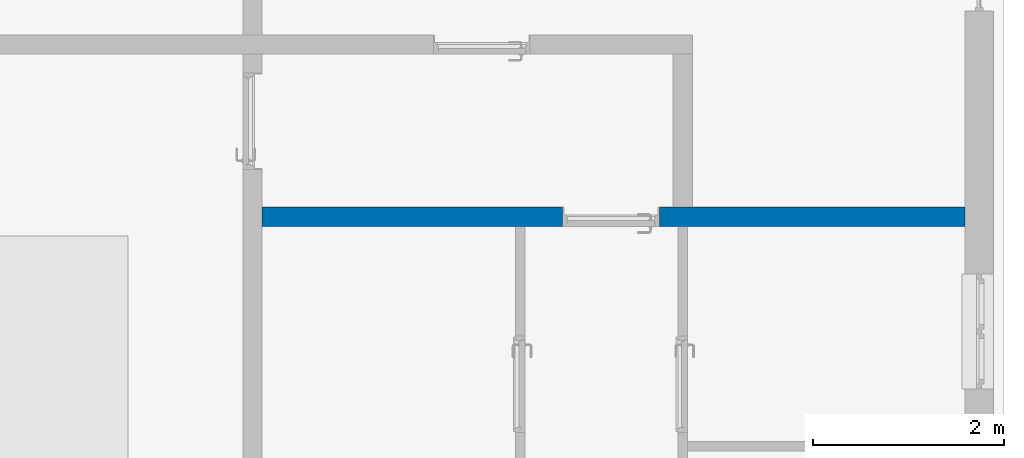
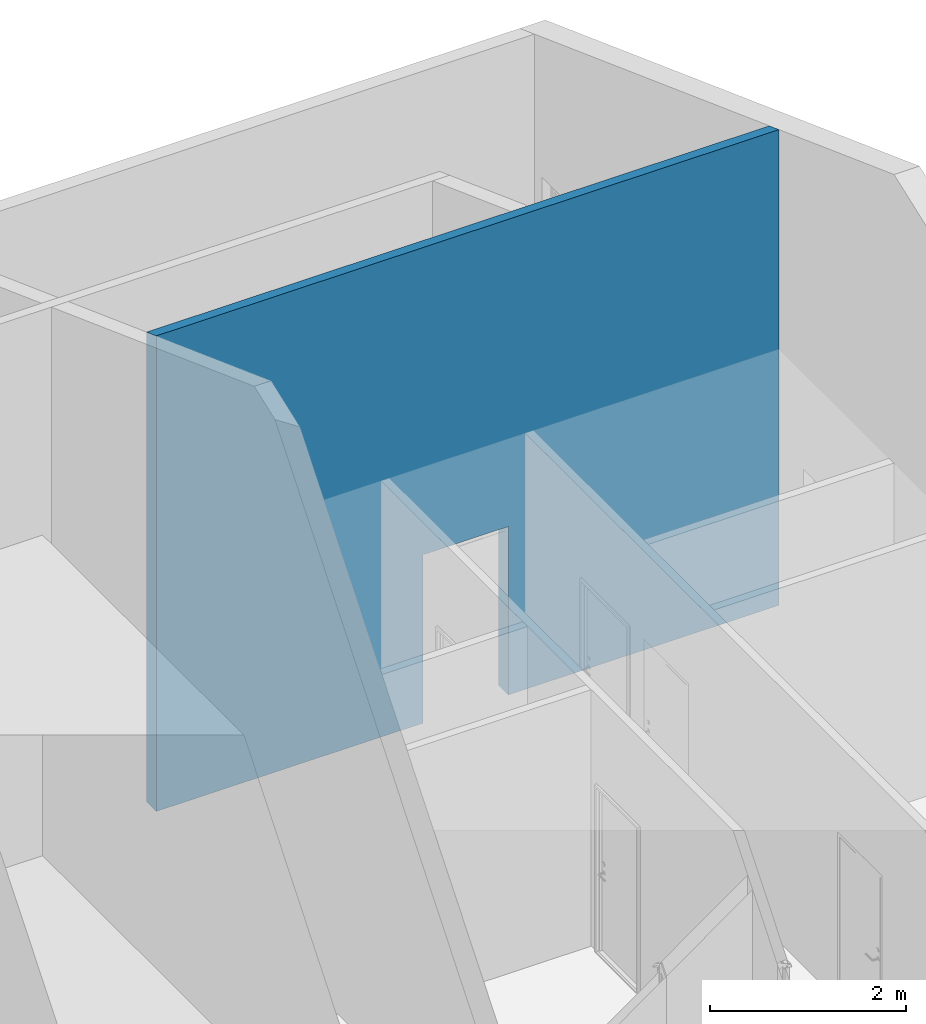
# One storey, part 15 of 23: 1 wall, 1 opening.
"""IFC2X3 building model written with IfcOpenShell, lengths in millimetres."""

import ifcopenshell
import ifcopenshell.guid

model = None  # the IFC model being written
_history = None  # IfcOwnerHistory: only IFC2X3 demands one
_inside = {}  # id of a spatial element -> (the spatial element, [elements in it])
_under = {}  # id of a project, library or spatial element -> (it, [spatial elements below it])
_declared = {}  # id of a project -> (the project, [libraries it declares])
_typed = {}  # id of a type object -> (the type object, [elements of that type])
_made_of = {}  # id of a material, layer set ... -> (it, [elements and type objects made of it])


def new_model(schema):
    """Start an empty IFC model of exactly this schema.

    Asked for "IFC4X3", IfcOpenShell would pick the latest addendum, in which some entities
    have other attributes; the version numbers below select the first issue.
    IFC2X3 requires an IfcOwnerHistory on every rooted entity: one is made here for all.
    """
    global model, _history
    if schema == "IFC4X3":
        model = ifcopenshell.file(schema_version=(4, 3, 0, 0))
    else:
        model = ifcopenshell.file(schema=schema)
    _inside.clear()
    _under.clear()
    _declared.clear()
    _typed.clear()
    _made_of.clear()
    _history = None
    if model.schema == "IFC2X3":
        org = make("IfcOrganization", Name="unknown")
        user = make(
            "IfcPersonAndOrganization",
            ThePerson=make("IfcPerson", FamilyName="unknown"),
            TheOrganization=org,
        )
        app = make(
            "IfcApplication",
            ApplicationDeveloper=org,
            Version="unknown",
            ApplicationFullName="unknown",
            ApplicationIdentifier="unknown",
        )
        _history = make(
            "IfcOwnerHistory",
            OwningUser=user,
            OwningApplication=app,
            ChangeAction="ADDED",
            CreationDate=0,
        )
    return model


def make(cls, **values):
    """One entity of the class cls with the attributes given. An attribute that is None is left unset."""
    return model.create_entity(
        cls, **{name: value for name, value in values.items() if value is not None}
    )


def entity(cls, *values):
    """Any entity or typed value of the class cls, its attributes in the order of the schema. None: left unset."""
    e = model.create_entity(cls)
    for i, value in enumerate(values):
        if value is not None:
            e[i] = value
    return e


def rooted(cls, **values):
    """An entity with a GlobalId (a new one), such as an element, a storey or a relation."""
    return make(cls, GlobalId=ifcopenshell.guid.new(), OwnerHistory=_history, **values)


def si_unit(unit_type, name, prefix=None):
    """IfcSIUnit, for example si_unit("LENGTHUNIT", "METRE", prefix="MILLI")."""
    return make("IfcSIUnit", UnitType=unit_type, Prefix=prefix, Name=name)


def converted_unit(unit_type, name, factor, base, dimensions=None, offset=None):
    """IfcConversionBasedUnit, such as the inch: factor (a typed value) times the base unit."""
    return make(
        "IfcConversionBasedUnit"
        if offset is None
        else "IfcConversionBasedUnitWithOffset",
        ConversionOffset=offset,
        Dimensions=None
        if dimensions is None
        else entity("IfcDimensionalExponents", *dimensions),
        UnitType=unit_type,
        Name=name,
        ConversionFactor=make(
            "IfcMeasureWithUnit", ValueComponent=factor, UnitComponent=base
        ),
    )


def assignment(units):
    """IfcUnitAssignment: the units of a project."""
    return None if units is None else make("IfcUnitAssignment", Units=units)


def point(xyz):
    """IfcCartesianPoint."""
    return None if xyz is None else make("IfcCartesianPoint", Coordinates=xyz)


def direction(xyz):
    """IfcDirection."""
    return None if xyz is None else make("IfcDirection", DirectionRatios=xyz)


def frame(location, z_axis=None, x_axis=None):
    """IfcAxis2Placement3D, a coordinate frame: its origin and axes. An axis left out is left unset."""
    return make(
        "IfcAxis2Placement3D",
        Location=point(location),
        Axis=direction(z_axis),
        RefDirection=direction(x_axis),
    )


def frame_2d(location, x_axis=None):
    """IfcAxis2Placement2D, a coordinate frame in the plane: its origin and x axis."""
    return make(
        "IfcAxis2Placement2D", Location=point(location), RefDirection=direction(x_axis)
    )


def origin():
    """The frame at (0, 0, 0) with its axes left unset."""
    return frame((0.0, 0.0, 0.0))


def place(relative_to, where):
    """IfcLocalPlacement: puts the frame where relative to a parent placement (None: the world)."""
    return make(
        "IfcLocalPlacement", PlacementRelTo=relative_to, RelativePlacement=where
    )


def context(
    kind, dimensions, precision=None, world=None, true_north=None, identifier=None
):
    """IfcGeometricRepresentationContext, for example the 3D "Model" context."""
    return make(
        "IfcGeometricRepresentationContext",
        ContextIdentifier=identifier,
        ContextType=kind,
        CoordinateSpaceDimension=dimensions,
        Precision=precision,
        WorldCoordinateSystem=world,
        TrueNorth=true_north,
    )


def subcontext(parent, identifier, kind, view, scale=None):
    """IfcGeometricRepresentationSubContext, for example "Body" below "Model"."""
    return make(
        "IfcGeometricRepresentationSubContext",
        ContextIdentifier=identifier,
        ContextType=kind,
        ParentContext=parent,
        TargetScale=scale,
        TargetView=view,
    )


def project(units=None, contexts=None):
    """IfcProject with its units and contexts."""
    return rooted(
        "IfcProject",
        Name="project",
        RepresentationContexts=contexts,
        UnitsInContext=assignment(units),
    )


def spatial(cls, under=None, at=None, **own):
    """A site, building, storey or space (cls), placed at a placement, below another one or the project."""
    s = rooted(cls, ObjectPlacement=at, **own)
    if under is not None:
        _under.setdefault(under.id(), (under, []))[1].append(s)
    return s


def polyline(points):
    """IfcPolyline through the points."""
    return make("IfcPolyline", Points=[point(p) for p in points])


def profile(cls, at=None, kind="AREA", **sizes):
    """A parametric profile (cls). Its sizes go by their IFC names, for example OverallWidth=200.0."""
    return make(cls, ProfileType=kind, Position=at, **sizes)


def rectangle(**sizes):
    """IfcRectangleProfileDef."""
    return profile("IfcRectangleProfileDef", **sizes)


def extrude(swept, where, along, depth):
    """IfcExtrudedAreaSolid: the profile swept, set in the frame where, extruded along a direction by depth."""
    return make(
        "IfcExtrudedAreaSolid",
        SweptArea=swept,
        Position=where,
        ExtrudedDirection=direction(along),
        Depth=depth,
    )


def clip(a, b, op="DIFFERENCE"):
    """IfcBooleanClippingResult: the solid a cut by the half space b."""
    return make(
        "IfcBooleanClippingResult", Operator=op, FirstOperand=a, SecondOperand=b
    )


def bounded_halfspace(plane, agree, where, boundary):
    """IfcPolygonalBoundedHalfSpace: a half space limited to a polygon's prism."""
    return make(
        "IfcPolygonalBoundedHalfSpace",
        BaseSurface=make("IfcPlane", Position=plane),
        AgreementFlag=agree,
        Position=where,
        PolygonalBoundary=boundary,
    )


def shape(context_of_items, identifier, shape_type, items):
    """IfcShapeRepresentation: the items that make up one representation, for example the "Body"."""
    return make(
        "IfcShapeRepresentation",
        ContextOfItems=context_of_items,
        RepresentationIdentifier=identifier,
        RepresentationType=shape_type,
        Items=items,
    )


def material(Name=None, Category=None):
    """IfcMaterial."""
    return make("IfcMaterial", Name=Name, Category=Category)


def layer(
    of_material, thickness, ventilated=None, Name=None, Category=None, Priority=None
):
    """IfcMaterialLayer: one layer of a wall or slab, of a material (None: an air gap)."""
    return make(
        "IfcMaterialLayer",
        Material=of_material,
        LayerThickness=thickness,
        IsVentilated=ventilated,
        Name=Name,
        Category=Category,
        Priority=Priority,
    )


def layer_set(layers, Name=None):
    """IfcMaterialLayerSet."""
    return make("IfcMaterialLayerSet", MaterialLayers=layers, LayerSetName=Name)


def layer_usage(for_layer_set, set_direction, sense, offset, extent=None):
    """IfcMaterialLayerSetUsage: how a layer set lies in its element."""
    return make(
        "IfcMaterialLayerSetUsage",
        ForLayerSet=for_layer_set,
        LayerSetDirection=set_direction,
        DirectionSense=sense,
        OffsetFromReferenceLine=offset,
        ReferenceExtent=extent,
    )


def made_of(thing, what):
    """Note that an element or type object is made of a material, layer set ...; save() writes the relation."""
    if what is not None:
        _made_of.setdefault(what.id(), (what, []))[1].append(thing)
    return thing


def type_object(cls, material=None, **own):
    """A type object (cls), such as IfcWallType, which elements share."""
    return made_of(rooted(cls, **own), material)


def element(
    cls,
    number,
    at=None,
    inside=None,
    cuts=None,
    type_object=None,
    material=None,
    context=None,
    identifier="Body",
    shape_type=None,
    held_by="IfcProductDefinitionShape",
    body=None,
    shapes=None,
    **own,
):
    """One element of the class cls, such as IfcWall. Its Tag is "e" and its number.

    at: its placement. inside: the storey or other place that contains it. cuts: it is an
    opening in that element (IfcRelVoidsElement). A single representation is given by context,
    identifier, shape_type and body (its items); several are given by shapes. held_by: the class
    of the entity that holds the representations. save() writes the other relations.
    """
    e = rooted(cls, Tag="e%d" % number, ObjectPlacement=at, **own)
    if body is not None:
        shapes = [shape(context, identifier, shape_type, body)]
    if shapes is not None:
        e.Representation = make(held_by, Representations=shapes)
    if inside is not None:
        _inside.setdefault(inside.id(), (inside, []))[1].append(e)
    if cuts is not None:
        rooted(
            "IfcRelVoidsElement", RelatingBuildingElement=cuts, RelatedOpeningElement=e
        )
    if type_object is not None:
        _typed.setdefault(type_object.id(), (type_object, []))[1].append(e)
    return made_of(e, material)


def aggregate(whole, parts):
    """IfcRelAggregates: a whole, such as a stair, and the parts it consists of."""
    return rooted("IfcRelAggregates", RelatingObject=whole, RelatedObjects=parts)


def save(model, path):
    """Write the relations noted so far, then the file.

    IfcRelAggregates (storeys below a building ...), IfcRelContainedInSpatialStructure (elements
    in a storey), IfcRelDefinesByType, IfcRelAssociatesMaterial and IfcRelDeclares: one each for
    every whole, place, type object, material and project.
    """
    for whole, parts in _under.values():
        aggregate(whole, parts)
    for where, things in _inside.values():
        rooted(
            "IfcRelContainedInSpatialStructure",
            RelatedElements=things,
            RelatingStructure=where,
        )
    for kind, things in _typed.values():
        rooted("IfcRelDefinesByType", RelatedObjects=things, RelatingType=kind)
    for what, things in _made_of.values():
        rooted("IfcRelAssociatesMaterial", RelatedObjects=things, RelatingMaterial=what)
    for by, libraries in _declared.values():
        rooted("IfcRelDeclares", RelatingContext=by, RelatedDefinitions=libraries)
    model.write(path)


model = new_model("IFC2X3")

# Units and contexts
model_context = context("Model", 3, precision=0.01, world=origin(), true_north=direction((6.123031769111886e-17, 1.0)))
body_context = subcontext(model_context, "Body", "Model", "MODEL_VIEW")
ifc_project = project(units=[si_unit("LENGTHUNIT", "METRE", prefix="MILLI"), converted_unit("PLANEANGLEUNIT", "DEGREE", entity("IfcPlaneAngleMeasure", 0.017453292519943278), si_unit("PLANEANGLEUNIT", "RADIAN"), dimensions=[0, 0, 0, 0, 0, 0, 0]), si_unit("AREAUNIT", "SQUARE_METRE")], contexts=[model_context])

# Site, building, storey
site_placement = place(None, frame((7776.576483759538, 118.3519876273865, 0.0)))
site = spatial("IfcSite", under=ifc_project, at=site_placement, Name="Default", CompositionType="ELEMENT")
building_placement = place(site_placement, origin())
building = spatial("IfcBuilding", under=site, at=building_placement, Name="Bygning (endres i Project Information)", CompositionType="ELEMENT")
storey_placement = place(building_placement, frame((0.0, 0.0, 19000.0)))
storey = spatial("IfcBuildingStorey", under=building, at=storey_placement, Name="Plan 01", CompositionType="ELEMENT", Elevation=19000.0)

# Wall, opening
ifc_material = material(Name="Default Wall")
ifc_layer = layer(ifc_material, 200.0)
ifc_layer_set = layer_set([ifc_layer], Name="Basic Wall:Generic - 200mm")
ifc_layer_usage = layer_usage(ifc_layer_set, "AXIS2", "NEGATIVE", 100.0)
wall_type = type_object("IfcWallType", Name="Basic Wall:Generic - 200mm", PredefinedType="STANDARD", material=ifc_layer_set)
wall_placement = place(storey_placement, frame((32224.00137486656, 29397.75730578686, 0.0)))
wall = element("IfcWallStandardCase", 1, at=wall_placement, inside=storey, type_object=wall_type, material=ifc_layer_usage, Name="Basic Wall:Generic - 200mm", ObjectType="Basic Wall:Generic - 200mm", context=body_context, shape_type="Clipping", body=[
    clip(extrude(rectangle(XDim=7350.000000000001, YDim=200.00000000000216, at=frame_2d((3675.0000000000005, -1.6271428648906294e-12), x_axis=(1.0, 0.0))), origin(), (0.0, 0.0, 1.0), 5934.969325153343), bounded_halfspace(frame((0.0, -100.0, 5934.969325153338), z_axis=(0.0, 0.34543854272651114, 0.9384413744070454), x_axis=(-1.0, 0.0, 0.0)), False, frame((0.0, -100.0, 5934.969325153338)), polyline([(0.0, 0.0), (7350.0, 0.0), (7350.0, 200.0), (4500.0, 200.0), (4300.0, 200.0), (0.0, 200.0), (0.0, 0.0)]))),
])
opening_placement = place(wall_placement, frame((4155.0, 100.0, 0.0)))
element("IfcOpeningElement", 2, at=opening_placement, cuts=wall, Name="Single Door Simple:986 x 2089 mm - M10 x M21:1", ObjectType="Opening", context=body_context, shape_type="SweptSolid", body=[
    extrude(rectangle(XDim=2100.9999999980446, YDim=1009.9999999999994, at=frame_2d((1050.4999999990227, 504.9999999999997), x_axis=(1.0, 0.0))), frame((0.0, 0.0, 0.0), z_axis=(0.0, -1.0, 0.0), x_axis=(0.0, 0.0, 1.0)), (0.0, 0.0, 1.0), 200.0),
])

save(model, "model.ifc")
